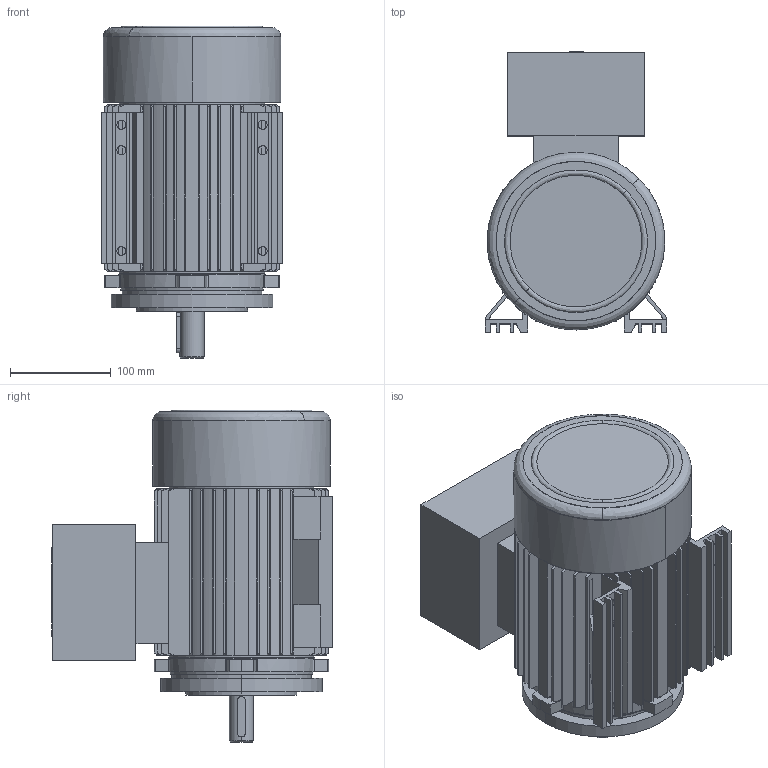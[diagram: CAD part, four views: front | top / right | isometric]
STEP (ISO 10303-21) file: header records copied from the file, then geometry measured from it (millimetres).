
FILE_DESCRIPTION (( 'STEP AP214' ), '1' );
FILE_NAME ('20.17499-G 5AT 90 B34-F130 Exde STANDK.STEP', '2018-11-15T10:17:25', ( '' ), ( '' ), 'SwSTEP 2.0', 'SolidWorks 2018', '' );
FILE_SCHEMA (( 'AUTOMOTIVE_DESIGN' ));
Length unit declared in the file: millimetre
Products named in the file (1): 20.17499-G 5AT 90 B34-F130 Exde STANDK
Bounding box: 180 x 278 x 329 mm (x, y, z)
Volume: 3905795.1 mm3; surface area: 746447 mm2
Topology: 4 solids, 4 shells, 744 faces, 1971 edges, 1279 vertices
Faces by surface type: plane 359, cylinder 224, cone 153, bspline 8
Entity records: 24004 total; most frequent: CARTESIAN_POINT 5422, ORIENTED_EDGE 3894, DIRECTION 3819, EDGE_CURVE 1947, AXIS2_PLACEMENT_3D 1372, VERTEX_POINT 1279, LINE 1075, VECTOR 1075
